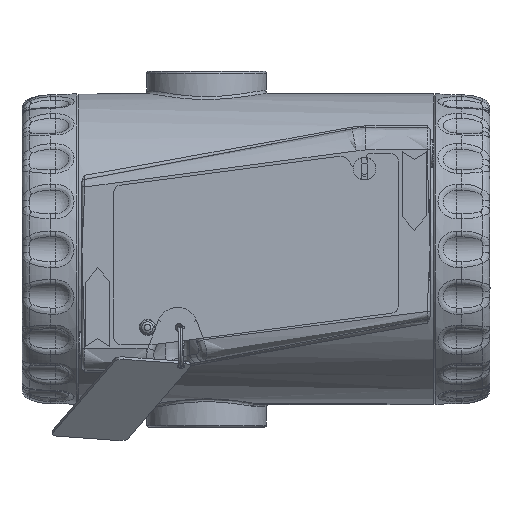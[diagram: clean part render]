
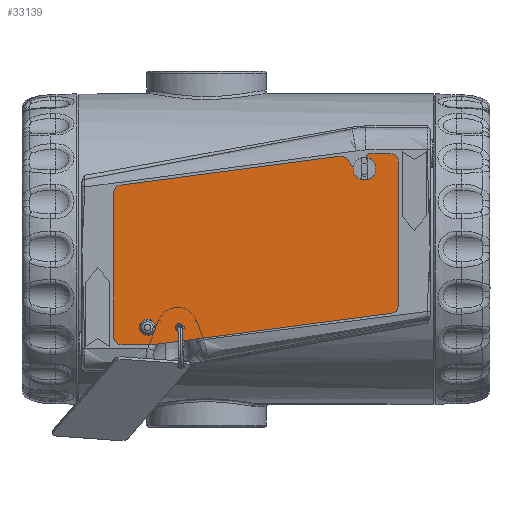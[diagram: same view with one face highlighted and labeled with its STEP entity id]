
A CAD part, left-side view. The second image highlights one B-rep face of the part: STEP entity #33139.
In plain terms, the highlighted planar face has unit normal (-1, 0, 0) as drawn and (0, 0, 1) by its records, which use the part's own axes.
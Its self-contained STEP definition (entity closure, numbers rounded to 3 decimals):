
#2532=FACE_BOUND('',#10661,.T.);
#2533=FACE_BOUND('',#10662,.T.);
#3062=PLANE('',#37482);
#4560=LINE('',#77101,#6099);
#4564=LINE('',#77113,#6103);
#4568=LINE('',#77125,#6107);
#4572=LINE('',#77137,#6111);
#4576=LINE('',#77149,#6115);
#4579=LINE('',#77155,#6118);
#4583=LINE('',#77167,#6122);
#4587=LINE('',#77178,#6126);
#6099=VECTOR('',#46558,10.);
#6103=VECTOR('',#46570,10.);
#6107=VECTOR('',#46582,10.);
#6111=VECTOR('',#46594,10.);
#6115=VECTOR('',#46606,10.);
#6118=VECTOR('',#46611,10.);
#6122=VECTOR('',#46623,10.);
#6126=VECTOR('',#46635,10.);
#8562=FACE_OUTER_BOUND('',#10660,.T.);
#10660=EDGE_LOOP('',(#30680,#30681,#30682,#30683,#30684,#30685,#30686,#30687,
#30688,#30689,#30690,#30691,#30692,#30693,#30694));
#10661=EDGE_LOOP('',(#30695));
#10662=EDGE_LOOP('',(#30696));
#12879=CIRCLE('',#37448,1.35);
#12881=CIRCLE('',#37451,1.);
#12882=CIRCLE('',#37453,2.);
#12884=CIRCLE('',#37457,2.);
#12886=CIRCLE('',#37461,1.);
#12888=CIRCLE('',#37465,2.);
#12890=CIRCLE('',#37469,2.);
#12892=CIRCLE('',#37474,2.);
#12894=CIRCLE('',#37478,2.);
#15922=VERTEX_POINT('',#77081);
#15924=VERTEX_POINT('',#77087);
#15925=VERTEX_POINT('',#77091);
#15926=VERTEX_POINT('',#77092);
#15929=VERTEX_POINT('',#77100);
#15931=VERTEX_POINT('',#77106);
#15933=VERTEX_POINT('',#77112);
#15935=VERTEX_POINT('',#77118);
#15937=VERTEX_POINT('',#77124);
#15939=VERTEX_POINT('',#77130);
#15941=VERTEX_POINT('',#77136);
#15943=VERTEX_POINT('',#77142);
#15945=VERTEX_POINT('',#77148);
#15947=VERTEX_POINT('',#77154);
#15949=VERTEX_POINT('',#77160);
#15951=VERTEX_POINT('',#77166);
#15953=VERTEX_POINT('',#77172);
#20832=EDGE_CURVE('',#15922,#15922,#12879,.T.);
#20835=EDGE_CURVE('',#15924,#15924,#12881,.T.);
#20836=EDGE_CURVE('',#15925,#15926,#12882,.T.);
#20840=EDGE_CURVE('',#15926,#15929,#4560,.T.);
#20843=EDGE_CURVE('',#15929,#15931,#12884,.T.);
#20846=EDGE_CURVE('',#15931,#15933,#4564,.T.);
#20849=EDGE_CURVE('',#15933,#15935,#12886,.T.);
#20852=EDGE_CURVE('',#15935,#15937,#4568,.T.);
#20855=EDGE_CURVE('',#15937,#15939,#12888,.T.);
#20858=EDGE_CURVE('',#15939,#15941,#4572,.T.);
#20861=EDGE_CURVE('',#15941,#15943,#12890,.T.);
#20864=EDGE_CURVE('',#15943,#15945,#4576,.T.);
#20867=EDGE_CURVE('',#15945,#15947,#4579,.T.);
#20870=EDGE_CURVE('',#15947,#15949,#12892,.T.);
#20873=EDGE_CURVE('',#15949,#15951,#4583,.T.);
#20876=EDGE_CURVE('',#15951,#15953,#12894,.T.);
#20879=EDGE_CURVE('',#15953,#15925,#4587,.T.);
#30680=ORIENTED_EDGE('',*,*,#20836,.F.);
#30681=ORIENTED_EDGE('',*,*,#20879,.F.);
#30682=ORIENTED_EDGE('',*,*,#20876,.F.);
#30683=ORIENTED_EDGE('',*,*,#20873,.F.);
#30684=ORIENTED_EDGE('',*,*,#20870,.F.);
#30685=ORIENTED_EDGE('',*,*,#20867,.F.);
#30686=ORIENTED_EDGE('',*,*,#20864,.F.);
#30687=ORIENTED_EDGE('',*,*,#20861,.F.);
#30688=ORIENTED_EDGE('',*,*,#20858,.F.);
#30689=ORIENTED_EDGE('',*,*,#20855,.F.);
#30690=ORIENTED_EDGE('',*,*,#20852,.F.);
#30691=ORIENTED_EDGE('',*,*,#20849,.F.);
#30692=ORIENTED_EDGE('',*,*,#20846,.F.);
#30693=ORIENTED_EDGE('',*,*,#20843,.F.);
#30694=ORIENTED_EDGE('',*,*,#20840,.F.);
#30695=ORIENTED_EDGE('',*,*,#20832,.T.);
#30696=ORIENTED_EDGE('',*,*,#20835,.T.);
#33139=ADVANCED_FACE('',(#8562,#2532,#2533),#3062,.T.);
#37448=AXIS2_PLACEMENT_3D('',#77083,#46539,#46540);
#37451=AXIS2_PLACEMENT_3D('',#77089,#46546,#46547);
#37453=AXIS2_PLACEMENT_3D('',#77093,#46550,#46551);
#37457=AXIS2_PLACEMENT_3D('',#77107,#46563,#46564);
#37461=AXIS2_PLACEMENT_3D('',#77119,#46575,#46576);
#37465=AXIS2_PLACEMENT_3D('',#77131,#46587,#46588);
#37469=AXIS2_PLACEMENT_3D('',#77143,#46599,#46600);
#37474=AXIS2_PLACEMENT_3D('',#77161,#46616,#46617);
#37478=AXIS2_PLACEMENT_3D('',#77173,#46628,#46629);
#37482=AXIS2_PLACEMENT_3D('',#77181,#46639,#46640);
#46539=DIRECTION('center_axis',(0.,0.,-1.));
#46540=DIRECTION('ref_axis',(-1.,0.,0.));
#46546=DIRECTION('center_axis',(0.,0.,-1.));
#46547=DIRECTION('ref_axis',(-1.,0.,0.));
#46550=DIRECTION('center_axis',(0.,0.,-1.));
#46551=DIRECTION('ref_axis',(0.766,0.643,0.));
#46558=DIRECTION('',(0.643,-0.766,0.));
#46563=DIRECTION('center_axis',(0.,0.,1.));
#46564=DIRECTION('ref_axis',(0.766,0.643,0.));
#46570=DIRECTION('',(-0.643,0.766,0.));
#46575=DIRECTION('center_axis',(0.,0.,-1.));
#46576=DIRECTION('ref_axis',(0.,1.,0.));
#46582=DIRECTION('',(1.,0.,0.));
#46587=DIRECTION('center_axis',(0.,0.,-1.));
#46588=DIRECTION('ref_axis',(1.,0.,0.));
#46594=DIRECTION('',(0.,-1.,0.));
#46599=DIRECTION('center_axis',(0.,0.,-1.));
#46600=DIRECTION('ref_axis',(0.131,-0.991,0.));
#46606=DIRECTION('',(-0.991,-0.131,0.));
#46611=DIRECTION('',(-1.,0.,0.));
#46616=DIRECTION('center_axis',(0.,0.,-1.));
#46617=DIRECTION('ref_axis',(-1.,0.,0.));
#46623=DIRECTION('',(0.,1.,0.));
#46628=DIRECTION('center_axis',(0.,0.,-1.));
#46629=DIRECTION('ref_axis',(-0.131,0.991,0.));
#46635=DIRECTION('',(0.991,0.131,0.));
#46639=DIRECTION('center_axis',(0.,0.,1.));
#46640=DIRECTION('ref_axis',(1.,0.,0.));
#77081=CARTESIAN_POINT('',(10.35,4.599,0.7));
#77083=CARTESIAN_POINT('Origin',(9.,4.599,0.7));
#77087=CARTESIAN_POINT('',(18.4,4.599,0.7));
#77089=CARTESIAN_POINT('Origin',(17.4,4.599,0.7));
#77091=CARTESIAN_POINT('',(60.389,50.327,0.7));
#77092=CARTESIAN_POINT('',(62.182,49.63,0.7));
#77093=CARTESIAN_POINT('Origin',(60.65,48.344,0.7));
#77100=CARTESIAN_POINT('',(65.468,45.714,0.7));
#77101=CARTESIAN_POINT('',(65.468,45.714,0.7));
#77106=CARTESIAN_POINT('',(68.532,48.286,0.7));
#77107=CARTESIAN_POINT('Origin',(67.,47.,0.7));
#77112=CARTESIAN_POINT('',(67.633,49.357,0.7));
#77113=CARTESIAN_POINT('',(67.633,49.357,0.7));
#77118=CARTESIAN_POINT('',(68.399,51.,0.7));
#77119=CARTESIAN_POINT('Origin',(68.399,50.,0.7));
#77124=CARTESIAN_POINT('',(74.,51.,0.7));
#77125=CARTESIAN_POINT('',(74.,51.,0.7));
#77130=CARTESIAN_POINT('',(76.,49.,0.7));
#77131=CARTESIAN_POINT('Origin',(74.,49.,0.7));
#77136=CARTESIAN_POINT('',(76.,10.377,0.7));
#77137=CARTESIAN_POINT('',(76.,10.377,0.7));
#77142=CARTESIAN_POINT('',(74.261,8.394,0.7));
#77143=CARTESIAN_POINT('Origin',(74.,10.377,0.7));
#77148=CARTESIAN_POINT('',(10.5,0.,0.7));
#77149=CARTESIAN_POINT('',(10.5,0.,0.7));
#77154=CARTESIAN_POINT('',(2.,0.,0.7));
#77155=CARTESIAN_POINT('',(2.,0.,0.7));
#77160=CARTESIAN_POINT('',(0.,2.,0.7));
#77161=CARTESIAN_POINT('Origin',(2.,2.,0.7));
#77166=CARTESIAN_POINT('',(0.,40.623,0.7));
#77167=CARTESIAN_POINT('',(0.,40.623,0.7));
#77172=CARTESIAN_POINT('',(1.739,42.606,0.7));
#77173=CARTESIAN_POINT('Origin',(2.,40.623,0.7));
#77178=CARTESIAN_POINT('',(60.389,50.327,0.7));
#77181=CARTESIAN_POINT('Origin',(39.077,26.228,0.7));
